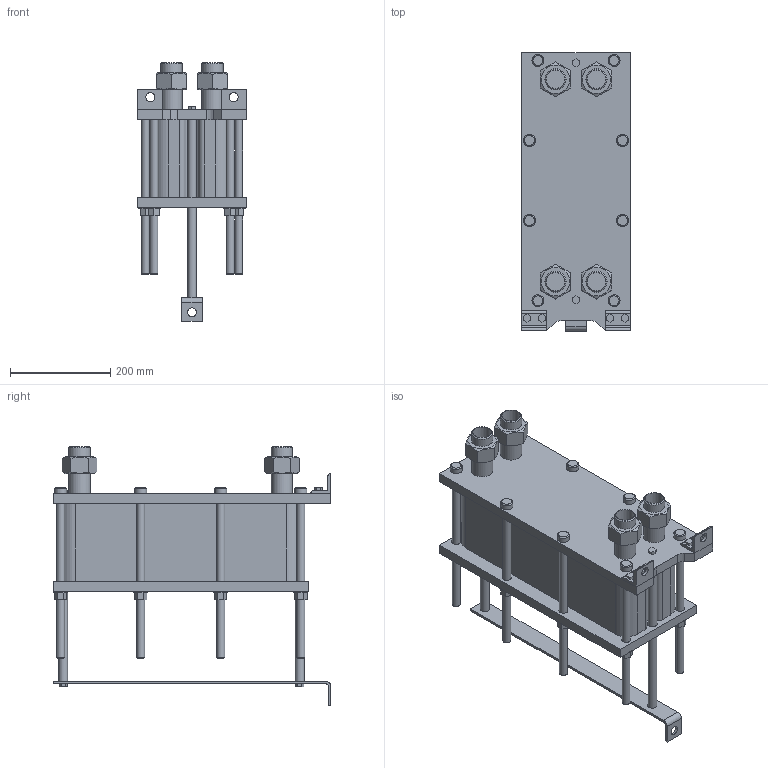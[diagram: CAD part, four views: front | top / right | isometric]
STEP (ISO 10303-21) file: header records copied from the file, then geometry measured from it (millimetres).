
FILE_DESCRIPTION(/* description */ (''),/* implementation_level */ '2;1');
FILE_NAME(/* name */ 'C:\Users\zhuro\Desktop\ENCO\TO\ЭН-004\ЭН-0,5-004-50-1.stp',/* time_stamp */ '2022-06-06T10:47:04+03:00',/* author */ ('zhuro'),/* organization */ (''),/* preprocessor_version */ 'ST-DEVELOPER v18.1',/* originating_system */ 'Autodesk Inventor 2022',/* authorisation */ '');
FILE_SCHEMA (('AUTOMOTIVE_DESIGN { 1 0 10303 214 3 1 1 }'));
Length unit declared in the file: millimetre
Products named in the file (1): ЭН-0,5-004-50-1
Bounding box: 216 x 555 x 517 mm (x, y, z)
Volume: 17203406.4 mm3; surface area: 1294574.7 mm2
Topology: 40 solids, 40 shells, 403 faces, 865 edges, 574 vertices
Faces by surface type: plane 272, cylinder 103, cone 28
Full cylindrical faces by diameter (mm): 10 x4, 16 x16, 18 x29, 20 x2, 24 x8, 28 x8, 36.3 x5, 42.3 x9
Entity records: 11137 total; most frequent: CARTESIAN_POINT 1939, DIRECTION 1879, ORIENTED_EDGE 1730, EDGE_CURVE 865, AXIS2_PLACEMENT_3D 658, VERTEX_POINT 574, LINE 563, VECTOR 563
